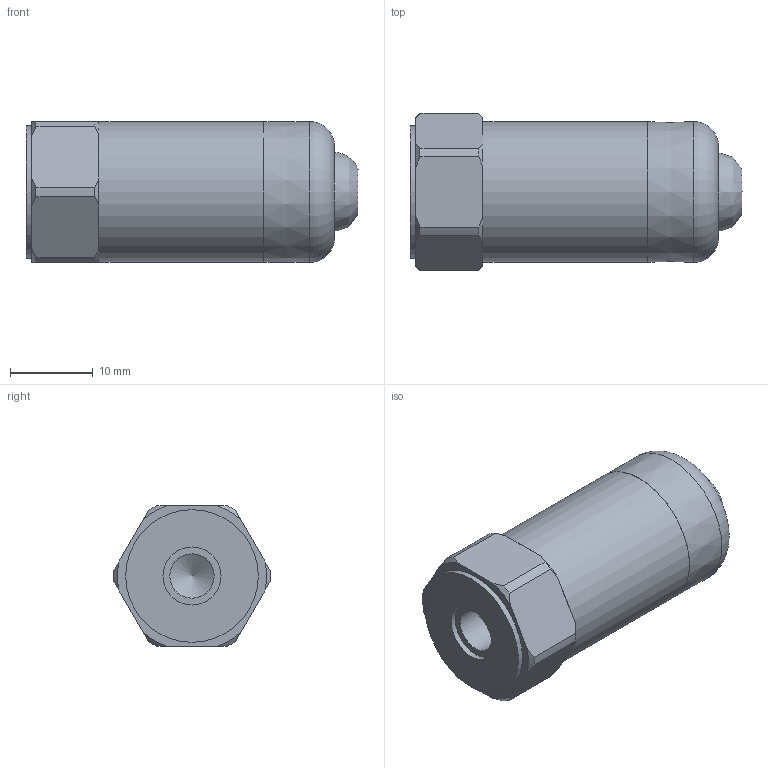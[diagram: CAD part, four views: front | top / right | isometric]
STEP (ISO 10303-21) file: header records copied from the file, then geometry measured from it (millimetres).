
FILE_DESCRIPTION(/* description */ (''),/* implementation_level */ '2;1');
FILE_NAME(/* name */ 'Z:\Engineering\Drawings\3D Library\Assemblies\Website\Premium Top\Compact\HS-170 Top Braided\HS-1700100201.stp',/* time_stamp */ '2023-03-16T16:52:17+00:00',/* author */ ('Ricardo.Peneda'),/* organization */ (''),/* preprocessor_version */ 'ST-DEVELOPER v18.1',/* originating_system */ 'Autodesk Inventor 2021',/* authorisation */ '');
FILE_SCHEMA (('AUTOMOTIVE_DESIGN { 1 0 10303 214 3 1 1 }'));
Length unit declared in the file: inch
Products named in the file (1): HS-1700100201_Shrinkwrap_1
Bounding box: 40.05 x 19 x 17.01 mm (x, y, z)
Volume: 4331.1 mm3; surface area: 4351.9 mm2
Topology: 2 solids, 2 shells, 56 faces, 153 edges, 102 vertices
Faces by surface type: cone 26, plane 17, cylinder 11, torus 1, bspline 1
Full cylindrical faces by diameter (mm): 5.359 x1, 7 x1, 15.05 x1, 16 x1, 17 x1
Entity records: 1911 total; most frequent: CARTESIAN_POINT 385, DIRECTION 319, ORIENTED_EDGE 304, EDGE_CURVE 152, AXIS2_PLACEMENT_3D 135, VERTEX_POINT 102, CIRCLE 79, EDGE_LOOP 60
